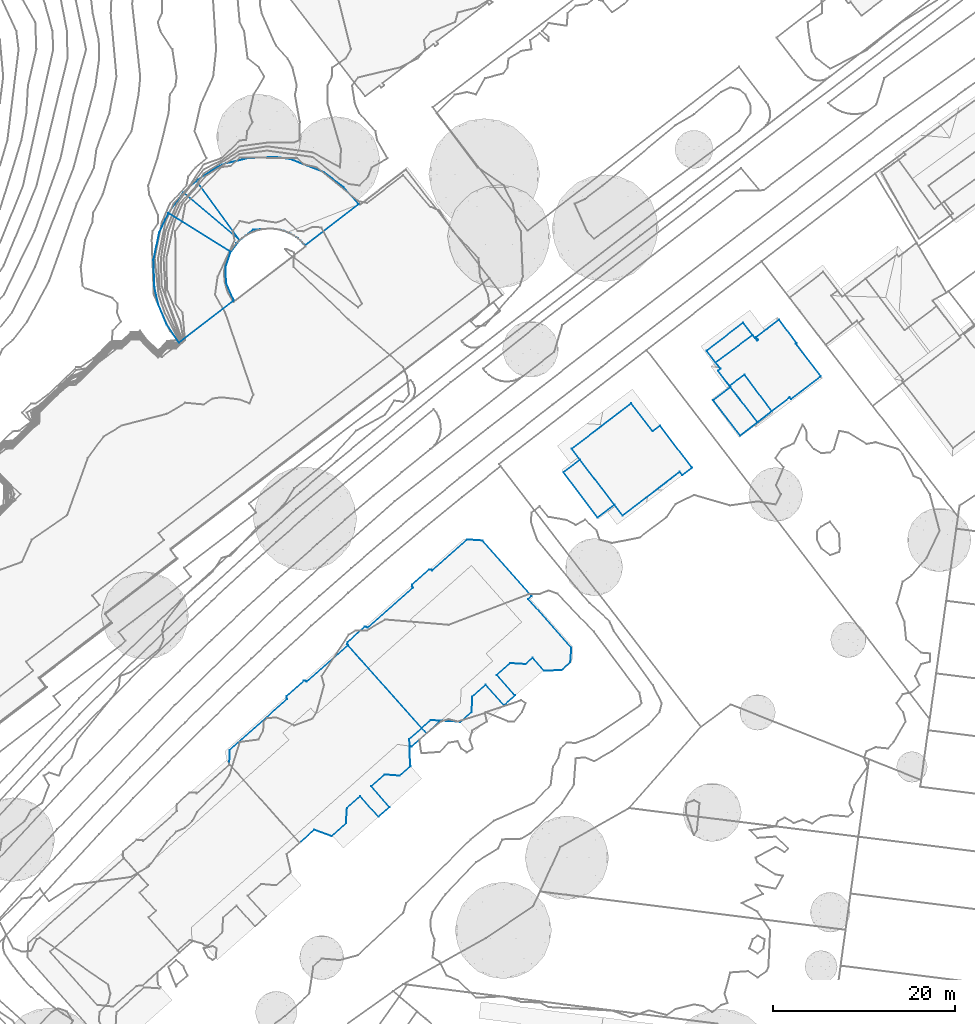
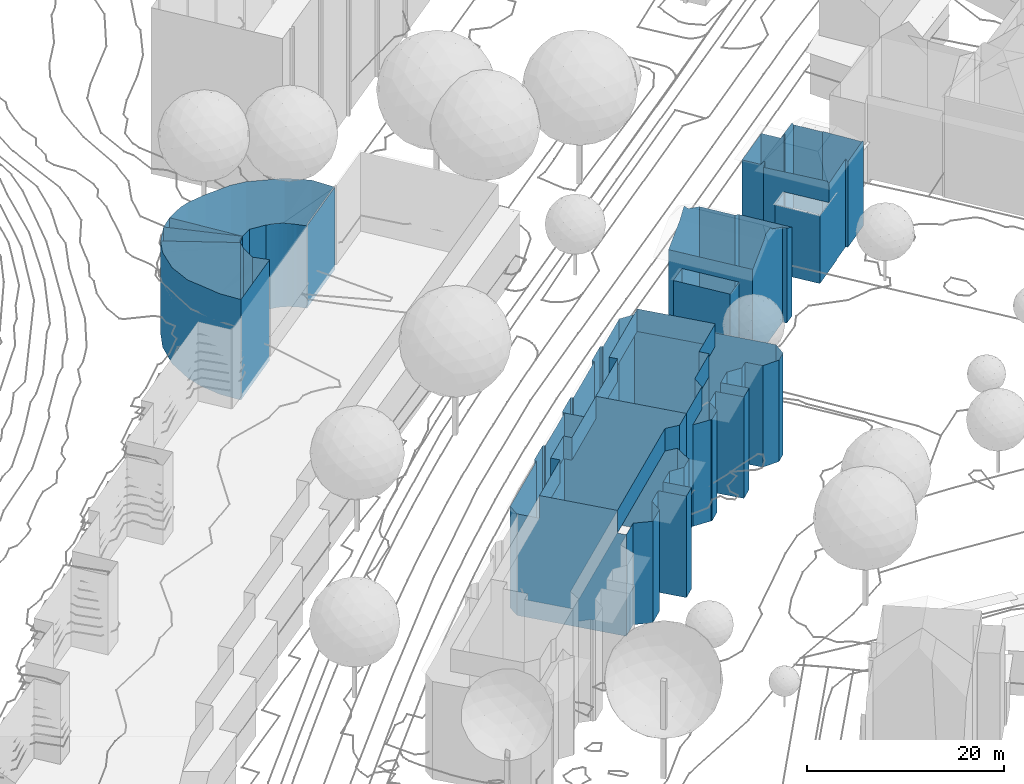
# Not in any storey, part 37 of 477: 9 walls.
"""IFC4 building model written with IfcOpenShell, lengths in metres."""

from ifc_helpers import new_model, si_unit, frame, origin_with_axes, place, context, subcontext, project, spatial, polygons, element, save


model = new_model("IFC4")

# Units and contexts
model_context = context("Model", 3, precision=1e-05, world=origin_with_axes())
body_context = subcontext(model_context, "Body", "Model", "MODEL_VIEW")
ifc_project = project(units=[si_unit("AREAUNIT", "SQUARE_METRE"), si_unit("LENGTHUNIT", "METRE")], contexts=[model_context])

# Sites, building
site_1_placement = place(None, origin_with_axes())
site_1 = spatial("IfcSite", under=ifc_project, at=site_1_placement, Name="Topoexport Site")
site_2_placement = place(site_1_placement, origin_with_axes())
site_2 = spatial("IfcSite", under=site_1, at=site_2_placement, Name="TPX_BUILDINGS")
building_1_placement = place(site_2_placement, frame((352.5117320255, 77.5340160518, 499.5586), z_axis=(0.0, 0.0, 1.0), x_axis=(1.0, 0.0, 0.0)))
building_1 = spatial("IfcBuilding", under=site_2, at=building_1_placement, Name="Building 2", CompositionType="ELEMENT")

# Wall
wall_1_placement = place(None, frame((352.5117320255, 77.5340160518, 499.5586), z_axis=(0.0, 0.0, 1.0), x_axis=(1.0, 0.0, 0.0)))
element("IfcWall", 1, at=wall_1_placement, inside=building_1, Name="Wall 0", context=body_context, shape_type="Tessellation", body=[
    polygons([(9.5549999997, 5.4375, 12.5588), (15.2990000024, 10.5361000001, 15.3595), (9.5549999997, 5.4375, 15.3595), (8.9560000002, 6.1123000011, 12.5588), (8.9560000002, 6.1123000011, 15.3595), (5.8819999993, 3.384800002, 12.5588), (5.8819999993, 3.384800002, 15.3595), (6.5600000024, 2.621100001, 12.5588), (6.5600000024, 2.621100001, 15.3595), (1.5899999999, -1.7901000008, 12.5588), (1.5899999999, -1.7901000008, 15.3595), (18.5270000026, 2.1182000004, 12.5588), (7.1150000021, -8.0126999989, 15.3595), (18.5270000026, 2.1182000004, 15.3595), (19.8509999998, 1.9219000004, 0.095), (19.8509999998, 1.9219000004, 12.5588), (20.1009999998, 1.884800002, 0.095), (20.1009999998, 1.884800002, 15.3595), (21.7280000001, 3.3291000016, 0.095), (21.7280000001, 3.3291000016, 15.3595), (8.5260000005, 9.0078000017, 0.0), (13.0700000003, 13.0361000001, 12.5588), (8.5260000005, 9.0078000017, 12.5588), (8.4470000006, 9.0976000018, 0.0), (8.4470000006, 9.0976000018, 12.5588), (8.2180000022, 9.1084000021, 0.0), (8.2180000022, 9.1084000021, 12.5588), (6.3170000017, 7.4219000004, 0.0), (6.3170000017, 7.4219000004, 12.5588), (6.3060000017, 7.2012000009, 0.0), (6.3060000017, 7.2012000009, 12.5588), (6.3859999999, 7.1103000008, 0.0), (6.3859999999, 7.1103000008, 12.5588), (0.0549999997, 1.4990000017, 0.0), (0.0549999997, 1.4990000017, 12.5588), (0.0, 0.0, 0.0), (0.0, 0.0, 12.5588), (9.3599999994, -7.2949000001, 0.0), (7.7479999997, -8.7256000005, 12.5588), (9.3599999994, -7.2949000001, 12.5588), (11.2569999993, -7.9970999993, 0.0), (11.2569999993, -7.9970999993, 12.5588), (12.8520000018, -6.5830000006, 0.0), (12.8520000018, -6.5830000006, 12.5588), (12.9550000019, -4.8944999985, 0.0), (12.9550000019, -4.8944999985, 12.5588), (14.4210000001, -3.5956999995, 0.0), (14.4210000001, -3.5956999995, 12.5588), (16.4270000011, -5.8603999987, 0.0), (16.4270000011, -5.8603999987, 12.5588), (17.6390000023, -4.7841999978, 0.0), (17.6390000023, -4.7841999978, 12.5588), (15.6400000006, -2.5165999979, 0.0), (15.6400000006, -2.5165999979, 12.5588), (17.1070000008, -1.2168000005, 0.0), (17.1070000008, -1.2168000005, 12.5588), (18.7750000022, -1.3368999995, 0.0), (18.7750000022, -1.3368999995, 12.5588), (19.9660000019, -0.2831999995, 0.0), (19.9660000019, -0.2831999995, 12.5588), (19.9140000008, -0.2256000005, 0.0), (19.9140000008, -0.2256000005, 12.5588), (19.8289999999, 2.6865000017, 0.095), (19.8289999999, 2.6865000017, 0.0), (21.2080000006, 3.9121000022, 0.0), (21.2080000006, 3.9121000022, 0.095), (15.2990000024, 10.5371000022, 12.5588), (13.0700000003, 13.0361000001, 0.0), (7.1150000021, -8.0126999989, 12.5588), (7.7479999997, -8.7256000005, 0.0)], [[[3, 2, 1]], [[5, 3, 4]], [[7, 5, 6]], [[9, 7, 8]], [[11, 8, 10]], [[14, 13, 12]], [[17, 16, 15]], [[16, 17, 18]], [[16, 14, 12]], [[14, 16, 18]], [[20, 18, 19]], [[23, 22, 21]], [[25, 23, 24]], [[27, 25, 26]], [[29, 27, 28]], [[31, 29, 30]], [[33, 31, 32]], [[35, 33, 34]], [[37, 35, 36]], [[40, 39, 38]], [[42, 40, 41]], [[44, 42, 43]], [[46, 44, 45]], [[48, 46, 47]], [[50, 48, 49]], [[52, 50, 51]], [[54, 52, 53]], [[56, 54, 55]], [[58, 56, 57]], [[60, 58, 59]], [[62, 60, 61]], [[64, 63, 15]], [[15, 62, 61]], [[62, 15, 16]], [[15, 61, 64]], [[66, 63, 65]], [[68, 67, 66]], [[67, 68, 22]], [[2, 20, 67]], [[66, 20, 19]], [[20, 66, 67]], [[66, 65, 68]], [[10, 70, 69]], [[69, 70, 39]], [[69, 13, 10]], [[37, 36, 10]], [[2, 67, 1]], [[3, 1, 4]], [[5, 4, 6]], [[7, 6, 8]], [[9, 8, 11]], [[13, 69, 12]], [[18, 17, 19]], [[22, 68, 21]], [[23, 21, 24]], [[25, 24, 26]], [[27, 26, 28]], [[29, 28, 30]], [[31, 30, 32]], [[33, 32, 34]], [[35, 34, 36]], [[39, 70, 38]], [[40, 38, 41]], [[42, 41, 43]], [[44, 43, 45]], [[46, 45, 47]], [[48, 47, 49]], [[50, 49, 51]], [[52, 51, 53]], [[54, 53, 55]], [[56, 55, 57]], [[58, 57, 59]], [[60, 59, 61]], [[63, 64, 65]], [[36, 70, 10]], [[13, 11, 10]]]),
])

# Building
building_2_placement = place(site_2_placement, frame((365.5087320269, 90.6648160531, 499.5586), z_axis=(0.0, 0.0, 1.0), x_axis=(1.0, 0.0, 0.0)))
building_2 = spatial("IfcBuilding", under=site_2, at=building_2_placement, Name="Building 3", CompositionType="ELEMENT")

# Wall
wall_2_placement = place(None, frame((365.5087320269, 90.6648160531, 499.5586), z_axis=(0.0, 0.0, 1.0), x_axis=(1.0, 0.0, 0.0)))
element("IfcWall", 2, at=wall_2_placement, inside=building_2, Name="Wall 0", context=body_context, shape_type="Tessellation", body=[
    polygons([(12.4389999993, -6.5107000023, 12.5588), (10.2949999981, -8.4140000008, 12.5588), (12.4389999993, -6.5107000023, 15.3595), (8.7309999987, -9.8016999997, 15.3595), (10.2949999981, -8.4140000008, 0.095), (8.7309999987, -9.8016999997, 0.095), (12.5339999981, -4.9149999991, 12.5588), (12.5339999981, -4.9149999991, 15.3595), (16.0089999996, -1.8310000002, 12.5588), (16.0089999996, -1.8310000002, 15.3595), (15.2800000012, -1.0097000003, 12.5588), (15.2800000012, -1.0097000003, 15.3595), (19.186999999, 2.4589999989, 12.5588), (19.186999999, 2.4589999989, 15.3595), (13.6550000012, 8.6895000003, 12.5588), (13.6550000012, 8.6895000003, 15.3595), (6.9290000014, 2.7188000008, 12.5588), (6.9290000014, 2.7188000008, 15.3595), (7.5280000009, 2.0439999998, 12.5588), (7.5280000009, 2.0439999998, 15.3595), (2.305999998, -2.5908000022, 12.5588), (2.305999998, -2.5908000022, 15.3595), (13.1970000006, 11.5372000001, 0.0), (14.8920000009, 11.4208999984, 12.5588), (13.1970000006, 11.5372000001, 12.5588), (9.3579999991, 8.1338, 0.0), (9.3579999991, 8.1338, 12.5588), (9.2780000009, 8.2236999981, 0.0), (9.2780000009, 8.2236999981, 12.5588), (9.0339999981, 8.2392999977, 0.0), (9.0339999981, 8.2392999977, 12.5588), (7.1680000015, 6.5830999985, 0.0), (7.1680000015, 6.5830999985, 12.5588), (7.1530000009, 6.3398999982, 0.0), (7.1530000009, 6.3398999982, 12.5588), (7.2329999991, 6.25, 0.0), (7.2329999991, 6.25, 12.5588), (2.2340000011, 1.8203999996, 0.0), (2.2340000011, 1.8203999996, 12.5588), (2.1539999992, 1.9101999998, 0.0), (2.1539999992, 1.9101999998, 12.5588), (1.9189999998, 1.9239000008, 0.0), (1.9189999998, 1.9239000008, 12.5588), (0.0219999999, 0.2402999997, 0.0), (0.0219999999, 0.2402999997, 12.5588), (0.0, 0.0, 0.0), (0.0, 0.0, 12.5588), (0.0769999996, -0.0908000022, 0.0), (0.0769999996, -0.0908000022, 12.5588), (12.4189999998, -8.5868999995, 0.0), (12.3619999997, -8.5234000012, 12.5588), (12.4189999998, -8.5868999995, 12.5588), (13.6900000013, -7.4580000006, 0.0), (13.6900000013, -7.4580000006, 12.5588), (13.7690000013, -5.7685000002, 0.0), (13.7690000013, -5.7685000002, 12.5588), (15.2329999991, -4.4648000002, 0.0), (15.2329999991, -4.4648000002, 12.5588), (17.2540000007, -6.7197000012, 0.0), (17.2540000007, -6.7197000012, 12.5588), (18.4820000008, -5.6297999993, 0.0), (18.4820000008, -5.6297999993, 12.5588), (16.4600000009, -3.3729999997, 0.0), (16.4600000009, -3.3729999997, 12.5588), (17.9169999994, -2.0751000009, 0.0), (17.9169999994, -2.0751999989, 12.5588), (19.625, -2.1845000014, 0.0), (19.625, -2.1845000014, 12.5588), (20.4100000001, -1.4862999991, 0.0), (20.4100000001, -1.4862999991, 12.5588), (21.6640000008, -2.8973999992, 0.0), (21.6640000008, -2.8973999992, 12.5588), (23.5819999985, -2.8584000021, 0.0), (23.5819999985, -2.8584000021, 12.5588), (24.5549999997, -1.9891999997, 0.0), (24.5549999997, -1.9891999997, 12.5588), (24.6719999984, -0.3662, 0.0), (24.6719999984, -0.3662, 12.5588), (19.9419999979, 4.9873999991, 0.0), (19.9419999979, 4.9873999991, 12.5588), (20.3209999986, 5.3242999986, 0.0), (20.3209999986, 5.3242999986, 12.5588), (14.8920000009, 11.4208999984, 0.0), (9.1849999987, -8.3553999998, 0.0), (8.2120000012, -9.2177000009, 0.0), (9.1849999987, -8.3553999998, 0.095), (12.3619999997, -8.5234000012, 0.0), (8.2109999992, -9.2186999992, 0.095)], [[[3, 2, 1]], [[2, 3, 4]], [[2, 6, 5]], [[6, 2, 4]], [[8, 3, 7]], [[10, 8, 9]], [[12, 10, 11]], [[14, 12, 13]], [[16, 14, 15]], [[18, 15, 17]], [[20, 17, 19]], [[22, 19, 21]], [[25, 24, 23]], [[27, 25, 26]], [[29, 27, 28]], [[31, 29, 30]], [[33, 31, 32]], [[35, 33, 34]], [[37, 35, 36]], [[39, 37, 38]], [[41, 39, 40]], [[43, 41, 42]], [[45, 43, 44]], [[47, 45, 46]], [[49, 47, 48]], [[52, 51, 50]], [[54, 52, 53]], [[56, 54, 55]], [[58, 56, 57]], [[60, 58, 59]], [[62, 60, 61]], [[64, 62, 63]], [[66, 64, 65]], [[68, 66, 67]], [[70, 68, 69]], [[72, 70, 71]], [[74, 72, 73]], [[76, 74, 75]], [[78, 76, 77]], [[80, 78, 79]], [[82, 80, 81]], [[24, 82, 83]], [[86, 85, 84]], [[87, 51, 5]], [[5, 51, 2]], [[5, 86, 84]], [[5, 84, 87]], [[6, 4, 88]], [[85, 88, 48]], [[4, 21, 88]], [[22, 21, 4]], [[49, 48, 21]], [[21, 48, 88]], [[3, 1, 7]], [[8, 7, 9]], [[10, 9, 11]], [[12, 11, 13]], [[14, 13, 15]], [[16, 15, 18]], [[18, 17, 20]], [[20, 19, 22]], [[24, 83, 23]], [[25, 23, 26]], [[27, 26, 28]], [[29, 28, 30]], [[31, 30, 32]], [[33, 32, 34]], [[35, 34, 36]], [[37, 36, 38]], [[39, 38, 40]], [[41, 40, 42]], [[43, 42, 44]], [[45, 44, 46]], [[47, 46, 48]], [[51, 87, 50]], [[52, 50, 53]], [[54, 53, 55]], [[56, 55, 57]], [[58, 57, 59]], [[60, 59, 61]], [[62, 61, 63]], [[64, 63, 65]], [[66, 65, 67]], [[68, 67, 69]], [[70, 69, 71]], [[72, 71, 73]], [[74, 73, 75]], [[76, 75, 77]], [[78, 77, 79]], [[80, 79, 81]], [[82, 81, 83]], [[88, 85, 86]]]),
])

# Building
building_3_placement = place(site_2_placement, frame((389.3167320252, 109.6180160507, 499.0156), z_axis=(0.0, 0.0, 1.0), x_axis=(1.0, 0.0, 0.0)))
building_3 = spatial("IfcBuilding", under=site_2, at=building_3_placement, Name="Building 32", CompositionType="ELEMENT")

# Wall
wall_3_placement = place(None, frame((389.3167320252, 109.6180160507, 499.0156), z_axis=(0.0, 0.0, 1.0), x_axis=(1.0, 0.0, 0.0)))
element("IfcWall", 3, at=wall_3_placement, inside=building_3, Name="Wall 0", context=body_context, shape_type="Tessellation", body=[
    polygons([(12.8000000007, 0.0341000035, 5.8495), (13.0810000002, -0.3320999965, 11.7299), (12.8000000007, 0.0341000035, -0.032), (13.0810000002, -0.3320999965, -0.032), (14.1560000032, 0.4814000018, -0.032), (14.1560000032, 0.4814000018, 10.965), (10.6339999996, 5.1308000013, 10.965), (10.6339999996, 5.1308000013, -0.032), (7.443, 7.5722000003, 8.6712), (9.8150000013, 4.5029000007, 11.5509), (7.443, 7.5722000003, 11.5719), (9.8150000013, 4.5029000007, -0.032), (7.443, 7.5722000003, 5.7565), (7.443, 7.5722000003, -0.032), (0.0, 0.0, 0.0), (1.807, 1.3857000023, 9.6401), (0.0, 0.0, 9.6401), (3.7730000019, -4.9833999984, 0.0), (3.7730000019, -4.9833999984, 9.6401), (5.6060000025, -3.5771999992, 0.0), (5.6060000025, -3.5771999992, 9.6401), (3.2840000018, 4.3828000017, -0.032), (0.9100000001, 2.5615000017, 11.5769), (0.9100000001, 2.5615000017, -0.032), (4.1740000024, 5.0644000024, -0.032), (5.063000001, 5.7470000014, 13.2738), (4.1740000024, 5.0644000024, 14.3297), (3.2840000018, 4.3828000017, 13.2738), (10.6440000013, -1.620099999, 13.2738), (12.8000000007, 0.0342000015, 11.7319), (10.6590000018, -1.6083999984, -0.032), (8.8640000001, -2.9853999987, 13.2738), (9.2550000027, -2.6855999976, 13.7377), (9.2690000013, -2.673899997, -0.032), (6.5310000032, -4.7753999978, 11.6049), (6.5310000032, -4.7753999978, -0.032), (10.2460000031, -1.9247999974, 13.7447), (1.7340000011, 1.4814000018, 11.5789), (5.6060000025, -3.5771999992, 11.5969), (5.6060000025, -3.5771999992, -0.032), (1.807, 1.3857000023, 0.0), (1.6440000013, 1.5986000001, -0.032)], [[[3, 2, 1]], [[4, 2, 3]], [[6, 4, 5]], [[8, 7, 6]], [[5, 8, 6]], [[11, 10, 9]], [[14, 13, 12]], [[12, 13, 9]], [[17, 16, 15]], [[19, 17, 18]], [[21, 18, 20]], [[24, 23, 22]], [[25, 22, 13]], [[13, 14, 25]], [[23, 13, 22]], [[28, 27, 26]], [[28, 26, 9]], [[11, 9, 26]], [[23, 9, 13]], [[23, 28, 9]], [[30, 29, 1]], [[3, 1, 31]], [[1, 29, 32]], [[33, 32, 29]], [[34, 1, 32]], [[34, 32, 35]], [[1, 34, 31]], [[35, 36, 34]], [[29, 37, 33]], [[39, 38, 21]], [[35, 39, 21]], [[36, 21, 20]], [[21, 36, 35]], [[20, 40, 36]], [[41, 40, 20]], [[16, 21, 38]], [[16, 38, 23]], [[16, 23, 24]], [[41, 42, 40]], [[42, 41, 16]], [[16, 24, 42]], [[30, 1, 2]], [[2, 4, 6]], [[10, 7, 12]], [[12, 7, 8]], [[10, 12, 9]], [[16, 41, 15]], [[17, 15, 18]], [[19, 18, 21]]]),
])

# Building
building_4_placement = place(site_2_placement, frame((405.0787320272, 122.9930160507, 499.2066), z_axis=(0.0, 0.0, 1.0), x_axis=(1.0, 0.0, 0.0)))
building_4 = spatial("IfcBuilding", under=site_2, at=building_4_placement, Name="Building 33", CompositionType="ELEMENT")

# Wall
wall_4_placement = place(None, frame((405.0787320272, 122.9930160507, 499.2066), z_axis=(0.0, 0.0, 1.0), x_axis=(1.0, 0.0, 0.0)))
element("IfcWall", 4, at=wall_4_placement, inside=building_4, Name="Wall 0", context=body_context, shape_type="Tessellation", body=[
    polygons([(7.9809999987, 3.4267000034, -0.126), (9.9129999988, 0.8252000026, 10.213), (7.9809999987, 3.4267000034, 10.213), (9.9129999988, 0.8252000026, -0.126), (0.9959999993, -1.2978999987, -0.126), (5.0779999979, 1.7256000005, 0.0), (0.9959999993, -1.2978999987, 0.0), (9.3090000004, -5.3173999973, 7.7333), (9.1609999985, -5.1269999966, -0.126), (9.3090000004, -5.3173999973, 10.454), (9.1609999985, -5.1269999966, 10.755), (1.2509999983, -2.2060999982, 10.704), (1.2509999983, -2.2060999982, -0.126), (1.5280000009, -1.9912, -0.126), (1.5280000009, -1.9912, 6.9344), (1.5280000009, -1.9912, 2.6988), (9.8220000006, 0.754900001, -0.126), (12.5799999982, -2.8007999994, 10.234), (9.8220000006, 0.754900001, 10.366), (12.5799999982, -2.8007999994, 4.9885), (12.5799999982, -2.8007999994, -0.126), (0.0, 0.0, 0.0), (4.0289999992, 3.0927000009, 10.721), (0.0, 0.0, 10.721), (5.4679999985, 1.4980000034, 10.732), (5.6979999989, 1.1972000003, -0.126), (5.4679999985, 1.4980000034, 6.4834), (5.4679999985, 1.4980000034, -0.126), (6.4250000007, 2.2324000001, 10.706), (6.432, 2.2226000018, 10.721), (6.4250000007, 2.2324000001, 10.721), (0.7219999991, -5.4570999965, -0.206), (2.625, -3.9960999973, 8.2642), (0.7219999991, -5.4570999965, 8.2642), (3.7120000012, -9.3544999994, -0.206), (3.7120000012, -9.3544999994, 8.2642), (4.1849999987, -2.6318999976, -0.206), (7.1750000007, -6.6679999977, -0.206), (4.1849999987, -2.6318999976, -0.126), (2.5229999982, -3.8632999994, -0.206), (2.5229999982, -3.8632999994, -0.126), (12.3969999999, -2.9423999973, 10.542), (9.3090000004, -5.3173999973, -0.126), (5.8830000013, 1.8154000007, 10.721), (7.7100000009, 3.2187000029, 10.672), (5.563000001, 1.0937000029, -0.126), (4.0289999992, 3.0927000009, 0.0), (5.0779999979, 1.7256000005, -0.126), (5.3249999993, 1.4033000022, 10.721), (5.563000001, 1.0937000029, 11.2089), (1.4620000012, -1.9042999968, 11.1689), (1.5280000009, -1.9912, 11.1709), (1.4620000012, -1.9042999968, -0.126), (1.243999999, -1.620099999, 10.721), (7.1750000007, -6.6679999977, -0.126), (5.6070000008, -7.8857999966, 8.2642), (2.625, -3.9960999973, -0.206), (5.6070000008, -7.8857999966, 10.63), (2.574000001, -3.9296999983, 10.754), (5.4959999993, -7.7402999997, 10.859), (5.6979999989, 1.1972000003, 11.2049)], [[[3, 2, 1]], [[2, 4, 1]], [[7, 6, 5]], [[10, 9, 8]], [[10, 11, 9]], [[14, 13, 12]], [[16, 12, 15]], [[19, 18, 17]], [[21, 17, 20]], [[2, 19, 17]], [[2, 17, 4]], [[24, 23, 22]], [[27, 26, 25]], [[28, 26, 27]], [[31, 30, 29]], [[34, 33, 32]], [[36, 34, 35]], [[39, 38, 37]], [[41, 39, 40]], [[42, 20, 18]], [[20, 42, 8]], [[20, 8, 21]], [[21, 8, 43]], [[42, 10, 8]], [[25, 44, 27]], [[1, 28, 27]], [[44, 29, 27]], [[31, 29, 44]], [[29, 45, 1]], [[3, 1, 45]], [[29, 1, 27]], [[6, 23, 46]], [[6, 47, 23]], [[46, 48, 6]], [[46, 23, 49]], [[50, 46, 49]], [[52, 51, 15]], [[7, 16, 15]], [[53, 14, 16]], [[51, 54, 15]], [[15, 24, 7]], [[7, 24, 22]], [[53, 7, 5]], [[53, 16, 7]], [[15, 54, 24]], [[9, 11, 55]], [[56, 36, 35]], [[56, 55, 11]], [[55, 35, 38]], [[35, 55, 56]], [[40, 57, 41]], [[33, 41, 57]], [[56, 58, 33]], [[33, 60, 59]], [[33, 13, 41]], [[13, 33, 59]], [[59, 12, 13]], [[33, 58, 60]], [[26, 50, 61]], [[46, 50, 26]], [[6, 48, 5]], [[43, 8, 9]], [[52, 15, 12]], [[14, 12, 16]], [[18, 20, 17]], [[23, 47, 22]], [[26, 61, 25]], [[33, 57, 32]], [[34, 32, 35]], [[55, 38, 39]], [[39, 37, 40]], [[58, 56, 11]]]),
])

# Building
building_5_placement = place(site_2_placement, frame((287.111732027, 46.2742160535, 500.3625), z_axis=(0.0, 0.0, 1.0), x_axis=(1.0, 0.0, 0.0)))
building_5 = spatial("IfcBuilding", under=site_2, at=building_5_placement, Name="Building 65", CompositionType="ELEMENT")

# Walls
wall_5_placement = place(None, frame((287.111732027, 46.2742160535, 500.3625), z_axis=(0.0, 0.0, 1.0), x_axis=(1.0, 0.0, 0.0)))
element("IfcWall", 5, at=wall_5_placement, inside=building_5, Name="Wall 5", context=body_context, shape_type="Tessellation", body=[
    polygons([(66.5350000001, 88.8886999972, 10.753), (66.5390000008, 88.8925999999, 10.753), (66.5370000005, 88.8905999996, 10.752), (66.5379999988, 88.8915999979, 2.4188), (66.5390000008, 88.8925999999, 2.4188), (66.5370000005, 88.8905999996, 3.8077), (66.5399000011, 88.8924999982, -0.3589), (66.5359999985, 88.8896999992, -0.3589), (66.5350999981, 88.8887999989, -0.3589), (61.7819999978, 95.4219000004, -0.3589), (61.7819999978, 95.4219000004, 10.7531), (60.3469999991, 94.1474999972, -0.3589), (60.3469999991, 94.1474999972, 10.877), (66.5399999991, 88.8925999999, 10.753)], [[[3, 2, 1]], [[5, 2, 4]], [[4, 2, 6]], [[7, 5, 4]], [[3, 1, 6]], [[4, 6, 8]], [[9, 6, 1]], [[9, 8, 6]], [[4, 8, 7]], [[11, 7, 10]], [[13, 11, 12]], [[1, 12, 9]], [[2, 3, 6]], [[2, 5, 7]], [[14, 7, 11]], [[11, 10, 12]], [[13, 12, 1]]]),
])
wall_6_placement = place(None, frame((287.111732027, 46.2742160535, 500.3625), z_axis=(0.0, 0.0, 1.0), x_axis=(1.0, 0.0, 0.0)))
element("IfcWall", 6, at=wall_6_placement, inside=building_5, Name="Wall 6", context=body_context, shape_type="Tessellation", body=[
    polygons([(65.557, 87.5995999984, -0.3589), (65.5219999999, 87.6425999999, 11.101), (65.557, 87.5995999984, 11.102), (66.557, 88.8691999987, -0.3589), (66.557, 88.8691999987, 10.753), (66.5249999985, 88.8808999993, 2.4128), (66.5249999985, 88.8808999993, 10.756), (66.5080000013, 88.8662, 2.4178), (66.4919999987, 88.8534999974, -0.3589), (66.5069999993, 88.8652999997, 10.761), (66.4919999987, 88.8534999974, 10.765), (66.5370000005, 88.8905999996, 10.753), (66.5359999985, 88.8896999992, -0.3589), (66.180999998, 88.5449000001, -0.3589), (66.180999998, 88.5449000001, 10.861), (65.8969999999, 88.2099999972, 10.956), (65.8969999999, 88.2099999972, -0.3589), (65.6440000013, 87.8515999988, -0.3589), (65.6440000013, 87.8515999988, 11.05), (65.5219999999, 87.6425999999, -0.3589), (66.5390000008, 88.8915999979, -0.3589), (66.5390000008, 88.8925999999, 10.753), (66.5399999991, 88.8925999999, -0.3589), (66.5379999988, 88.8915999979, 2.4188), (66.5370000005, 88.8906999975, 2.4188), (66.5390000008, 88.8925999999, 2.4188)], [[[3, 2, 1]], [[5, 1, 4]], [[8, 7, 6]], [[11, 10, 9]], [[7, 12, 6]], [[8, 6, 13]], [[12, 13, 6]], [[8, 13, 9]], [[11, 9, 14]], [[16, 15, 14]], [[17, 16, 14]], [[16, 17, 18]], [[19, 18, 2]], [[2, 18, 20]], [[22, 5, 21]], [[22, 21, 23]], [[25, 12, 24]], [[24, 22, 26]], [[12, 25, 13]], [[13, 25, 24]], [[24, 26, 23]], [[24, 23, 13]], [[2, 20, 1]], [[3, 1, 5]], [[10, 7, 8]], [[10, 8, 9]], [[14, 15, 11]], [[16, 18, 19]], [[5, 4, 21]], [[12, 22, 24]], [[22, 23, 26]]]),
])
wall_7_placement = place(None, frame((287.111732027, 46.2742160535, 500.3625), z_axis=(0.0, 0.0, 1.0), x_axis=(1.0, 0.0, 0.0)))
element("IfcWall", 7, at=wall_7_placement, inside=building_5, Name="Wall 7", context=body_context, shape_type="Tessellation", body=[
    polygons([(58.6970000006, 91.8827999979, -0.3589), (60.3469999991, 94.1474999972, 10.877), (58.6970000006, 91.8827999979, 11.102), (65.5130000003, 87.6270000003, -0.3589), (65.5130000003, 87.6270000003, 11.102), (65.5219999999, 87.6425999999, 11.101), (65.6440000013, 87.8515999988, 11.05), (65.6440000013, 87.8515999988, -0.3589), (65.5219999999, 87.6425999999, -0.3589), (65.8969999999, 88.2099999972, 10.956), (65.8969999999, 88.2099999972, -0.3589), (66.180999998, 88.5449000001, -0.3589), (66.180999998, 88.5449000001, 10.861), (66.4919999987, 88.8534999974, 10.765), (66.4919999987, 88.8534999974, -0.3589), (66.5080000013, 88.8662, 10.761), (66.5249999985, 88.8808999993, 10.756), (66.5249999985, 88.8808999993, 3.8037), (66.5029999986, 88.8622999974, 2.4188), (66.5139999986, 88.8710999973, 2.4158), (66.5350000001, 88.8886999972, 10.753), (66.5350000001, 88.8886999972, -0.3589), (60.3469999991, 94.1474999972, -0.3589), (65.557, 87.5995999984, -0.3589), (65.557, 87.5995999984, 11.102)], [[[3, 2, 1]], [[5, 3, 4]], [[8, 7, 6]], [[6, 9, 8]], [[8, 11, 10]], [[8, 10, 7]], [[13, 11, 12]], [[13, 10, 11]], [[15, 14, 12]], [[13, 12, 14]], [[18, 17, 16]], [[20, 16, 19]], [[18, 21, 17]], [[18, 20, 22]], [[22, 20, 15]], [[16, 15, 19]], [[19, 15, 20]], [[2, 21, 23]], [[25, 5, 24]], [[9, 6, 25]], [[24, 9, 25]], [[2, 23, 1]], [[3, 1, 4]], [[18, 16, 20]], [[22, 21, 18]], [[14, 15, 16]], [[21, 22, 23]], [[5, 4, 24]]]),
])
wall_8_placement = place(None, frame((287.111732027, 46.2742160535, 500.3625), z_axis=(0.0, 0.0, 1.0), x_axis=(1.0, 0.0, 0.0)))
element("IfcWall", 8, at=wall_8_placement, inside=building_5, Name="Wall 8", context=body_context, shape_type="Tessellation", body=[
    polygons([(70.4869999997, 98.0429999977, -0.3589), (72.0909999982, 97.8105999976, 10.1411), (70.4869999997, 98.0429999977, 10.1411), (67.4470000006, 97.9140999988, -0.3589), (67.4470000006, 97.9140999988, 10.1411), (70.5249999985, 90.1064999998, -0.3589), (70.0929999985, 90.1484999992, -0.3589), (70.5249999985, 90.1064999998, 10.1021), (70.9539999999, 90.0293000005, 10.0681), (70.9539999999, 90.0293000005, -0.3589), (71.373999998, 89.9159999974, 10.0341), (71.373999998, 89.9159999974, -0.3589), (71.7829999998, 89.7665999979, -0.3589), (70.0219999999, 90.1699000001, -0.3589), (70.0929999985, 90.1484999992, 10.1351), (70.0219999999, 90.1699000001, 10.1411), (64.6579999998, 97.1983000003, -0.3589), (65.0579999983, 97.3466999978, 10.3241), (64.6579999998, 97.1983000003, 10.3571), (65.0579999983, 97.3466999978, -0.3589), (64.4250000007, 97.0888999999, -0.3589), (69.2219999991, 90.1132999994, -0.3589), (68.0170000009, 90.0361999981, -0.3589), (69.2219999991, 90.1132999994, 10.2451), (69.6559999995, 90.1464999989, -0.3589), (69.6559999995, 90.1464999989, 10.1891), (64.432, 97.0918000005, 10.3761), (63.8220000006, 96.8057000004, -0.3589), (63.8220000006, 96.8057000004, 10.4571), (61.7819999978, 95.4219000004, -0.3589), (61.7819999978, 95.4219000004, 10.7531), (67.1900000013, 89.3798999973, -0.3589), (68.0170000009, 90.0361999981, 10.4021), (66.5399999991, 88.8925999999, -0.3589), (66.5399999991, 88.8925999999, 10.753), (66.5390000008, 88.8915999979, -0.3589), (66.5390000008, 88.8915999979, 10.753), (66.557, 88.8691999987, -0.3589), (66.557, 88.8691999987, 10.753), (67.1900000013, 89.3798999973, 10.6001), (72.5549999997, 89.3642999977, -0.3589), (72.1779999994, 89.5821000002, 9.9531), (72.5549999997, 89.3642999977, 9.8991), (72.1779999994, 89.5821000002, -0.3589), (72.7749999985, 89.2109999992, 9.8641), (72.7749999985, 89.2109999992, -0.3589), (72.9890000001, 89.1044999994, -0.3589), (72.9890000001, 89.1044999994, 9.8361), (79.6539999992, 92.8544999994, -0.3589), (73.7740000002, 88.3290999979, 9.8361), (79.6539999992, 92.8544999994, 9.8361), (73.25, 88.8398999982, -0.3589), (73.25, 88.8398999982, 9.8361), (73.5579999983, 88.5312999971, -0.3589), (73.5579999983, 88.5312999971, 9.8361), (73.7740000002, 88.3290999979, -0.3589), (71.75, 89.7782999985, 10.0071), (71.7829999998, 89.7665999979, 10.0041), (78.0089999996, 94.7294999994, -0.3589), (78.0089999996, 94.7294999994, 10.1411), (71.7039999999, 89.7958999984, 10.0071), (75.7809999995, 96.3847999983, -0.3589), (75.7809999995, 96.3847999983, 10.1411), (72.0909999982, 97.8105999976, -0.3589)], [[[3, 2, 1]], [[5, 3, 4]], [[8, 7, 6]], [[10, 9, 8]], [[8, 6, 10]], [[12, 11, 10]], [[10, 11, 9]], [[11, 12, 13]], [[15, 14, 7]], [[14, 15, 16]], [[19, 18, 17]], [[20, 17, 18]], [[21, 19, 17]], [[20, 18, 5]], [[4, 20, 5]], [[24, 23, 22]], [[26, 22, 25]], [[16, 25, 14]], [[28, 27, 21]], [[29, 27, 28]], [[31, 29, 30]], [[29, 28, 30]], [[33, 32, 23]], [[35, 31, 34]], [[37, 35, 36]], [[39, 37, 38]], [[40, 38, 32]], [[43, 42, 41]], [[42, 44, 41]], [[46, 45, 41]], [[48, 46, 47]], [[51, 50, 49]], [[53, 48, 52]], [[55, 53, 54]], [[50, 55, 56]], [[13, 58, 57]], [[60, 51, 59]], [[61, 11, 13]], [[63, 60, 62]], [[2, 63, 64]], [[2, 64, 1]], [[3, 1, 4]], [[15, 7, 8]], [[27, 19, 21]], [[33, 23, 24]], [[24, 22, 26]], [[26, 25, 16]], [[40, 32, 33]], [[31, 30, 34]], [[35, 34, 36]], [[37, 36, 38]], [[39, 38, 40]], [[42, 58, 13]], [[44, 42, 13]], [[43, 41, 45]], [[45, 46, 48]], [[50, 56, 49]], [[48, 47, 52]], [[53, 52, 54]], [[55, 54, 56]], [[61, 13, 57]], [[51, 49, 59]], [[60, 59, 62]], [[63, 62, 64]]]),
])
wall_9_placement = place(None, frame((287.111732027, 46.2742160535, 500.3625), z_axis=(0.0, 0.0, 1.0), x_axis=(1.0, 0.0, 0.0)))
element("IfcWall", 9, at=wall_9_placement, inside=building_5, Name="Wall 9", context=body_context, shape_type="Tessellation", body=[
    polygons([(58.5159999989, 79.6083999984, -0.3589), (57.5599999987, 81.8847999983, 12.0879), (58.5159999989, 79.6083999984, 12.0879), (57.5599999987, 81.8847999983, -0.3589), (57.1569999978, 83.7168000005, 11.75), (65.0009999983, 85.9745999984, -0.3589), (65.0410000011, 84.2001999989, 11.528), (65.0009999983, 85.9745999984, 11.528), (65.0410000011, 84.2001999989, -0.3589), (65.8959999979, 82.2675999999, -0.3589), (65.805999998, 82.1983000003, 12.0879), (65.8959999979, 82.2675999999, 12.0879), (59.8660000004, 77.623999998, -0.3589), (59.8660000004, 77.623999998, 12.0879), (65.805999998, 82.1983000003, -0.3589), (65.557, 87.5995999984, -0.3589), (65.557, 87.5995999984, 11.102), (65.5130000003, 87.6270000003, -0.3589), (65.5130000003, 87.6270000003, 11.102), (58.6970000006, 91.8827999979, -0.3589), (58.6970000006, 91.8827999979, 11.102), (57.682, 89.7196999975, -0.3589), (57.682, 89.7196999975, 11.353), (57.0460000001, 86.6904999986, -0.3589), (57.0460000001, 86.6904999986, 11.528), (57.1569999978, 83.7168000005, -0.3589)], [[[3, 2, 1]], [[2, 5, 4]], [[8, 7, 6]], [[7, 10, 9]], [[12, 11, 10]], [[14, 3, 13]], [[11, 14, 15]], [[17, 6, 16]], [[19, 17, 18]], [[21, 19, 20]], [[23, 21, 22]], [[25, 23, 24]], [[5, 25, 26]], [[2, 4, 1]], [[5, 26, 4]], [[7, 9, 6]], [[12, 10, 7]], [[11, 15, 10]], [[3, 1, 13]], [[14, 13, 15]], [[8, 6, 17]], [[17, 16, 18]], [[19, 18, 20]], [[21, 20, 22]], [[23, 22, 24]], [[25, 24, 26]]]),
])

save(model, "model.ifc")
